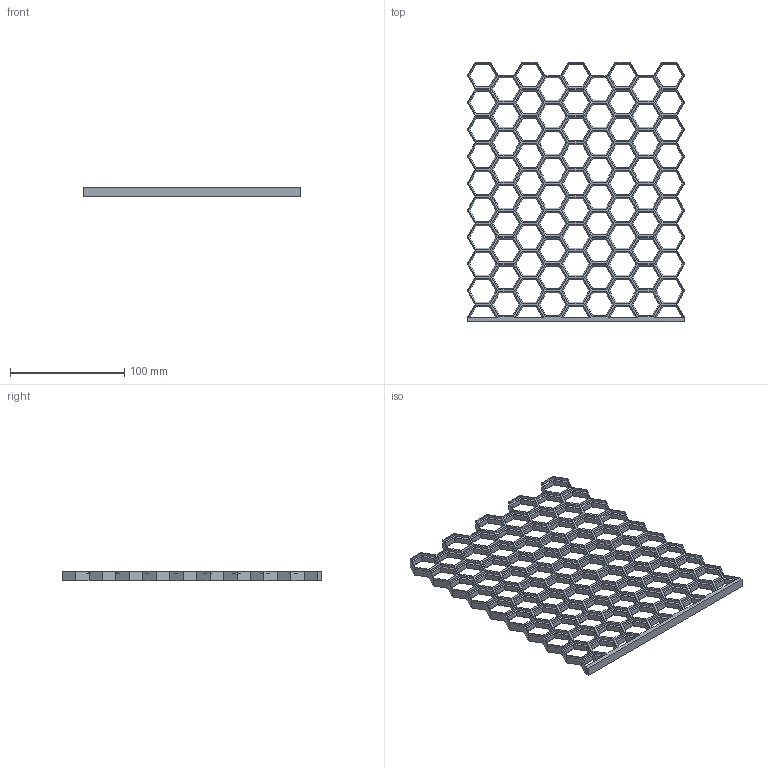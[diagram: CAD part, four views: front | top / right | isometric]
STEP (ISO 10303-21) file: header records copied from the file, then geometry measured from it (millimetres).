
FILE_DESCRIPTION(/* description */ (''),/* implementation_level */ '2;1');
FILE_NAME(/* name */ 'upmiddle.obenmitte.step',/* time_stamp */ '2023-07-05T03:55:16+02:00',/* author */ (''),/* organization */ (''),/* preprocessor_version */ 'ST-DEVELOPER v19.2',/* originating_system */ 'Autodesk Translation Framework v12.6.0.85',/* authorisation */ '');
FILE_SCHEMA (('AUTOMOTIVE_DESIGN { 1 0 10303 214 3 1 1 }'));
Length unit declared in the file: millimetre
Products named in the file (1): wall-honeycomb sortierseytem
Bounding box: 190.76 x 227.8 x 8 mm (x, y, z)
Volume: 80871.1 mm3; surface area: 75460.2 mm2
Topology: 1 solids, 1 shells, 2069 faces, 4713 edges, 2646 vertices
Faces by surface type: plane 2069
Entity records: 55227 total; most frequent: CARTESIAN_POINT 9429, ORIENTED_EDGE 9426, DIRECTION 8853, LINE 4713, VECTOR 4713, EDGE_CURVE 4713, VERTEX_POINT 2646, EDGE_LOOP 2241
